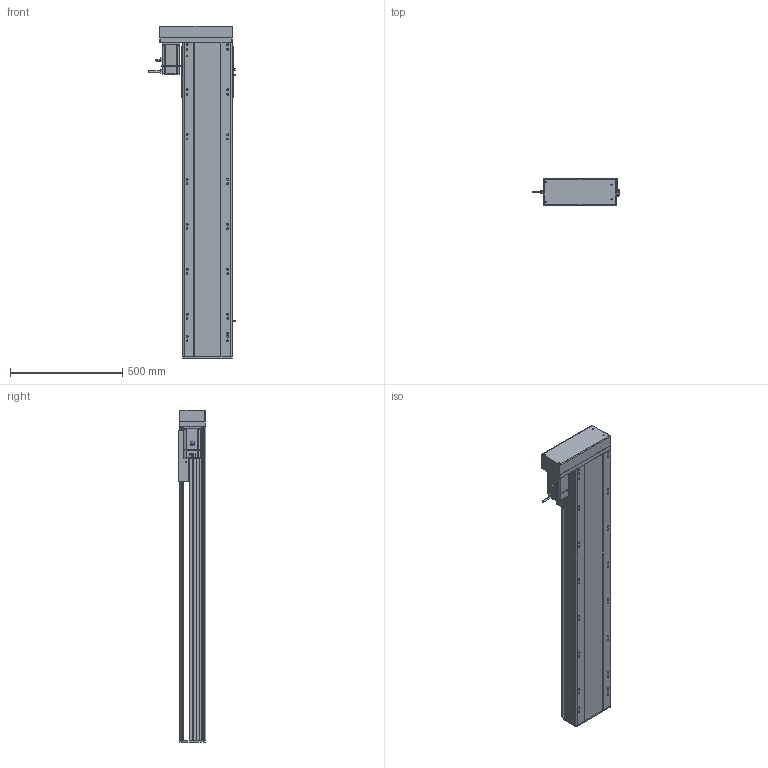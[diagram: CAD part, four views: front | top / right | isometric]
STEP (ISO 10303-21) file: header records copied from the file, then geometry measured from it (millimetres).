
FILE_DESCRIPTION (( 'STEP AP214' ), '1' );
FILE_NAME ('RTH22-XX-1100-R-M75-C4.STEP', '2025-10-25T03:13:28', ( 'Microsoft' ), ( 'Microsoft' ), 'SwSTEP 2.0', 'SolidWorks 2018', '' );
FILE_SCHEMA (( 'AUTOMOTIVE_DESIGN' ));
Length unit declared in the file: millimetre
Products named in the file (10): RTH22-XX-1100-R-M75-C4; N_RTH22-L-018裔赽^RTH22-XX-XX-R-M75-C4; N_RTH22-R-008-P75萇儂啣^RTH22-XX-XX-R-M75-C4; N_OMRON EE-SX672 传感器^RTH22-XX-XX-R-M75-C4; N_750W萇儂^RTH22-XX-XX-R-M75-C4; N_RTH22-L-007奻裔^RTH22-XX-XX-R-M75-C4; N_RTH22-L-011菁釱^RTH22-XX-XX-R-M75-C4; N_RTH22-GY-013外置感应片^RTH22-XX-XX-R-M75-C4; N_RTH22-L-004-SFS25賑釱^RTH22-XX-XX-R-M75-C4; N_RTH22-GY-001耜裔^RTH22-XX-XX-R-M75-C4
Assembly tree (11 placements, depth 2):
  RTH22-XX-1100-R-M75-C4
    N_RTH22-L-011菁釱^RTH22-XX-XX-R-M75-C4
    N_RTH22-GY-001耜裔^RTH22-XX-XX-R-M75-C4
    N_750W萇儂^RTH22-XX-XX-R-M75-C4
    N_RTH22-R-008-P75萇儂啣^RTH22-XX-XX-R-M75-C4
    N_RTH22-L-007奻裔^RTH22-XX-XX-R-M75-C4
    N_OMRON EE-SX672 传感器^RTH22-XX-XX-R-M75-C4  x3
    N_RTH22-GY-013外置感应片^RTH22-XX-XX-R-M75-C4
    N_RTH22-L-004-SFS25賑釱^RTH22-XX-XX-R-M75-C4
    N_RTH22-L-018裔赽^RTH22-XX-XX-R-M75-C4
Bounding box: 384.7 x 122 x 1479.7 mm (x, y, z)
Volume: 20091065.4 mm3; surface area: 2231408.6 mm2
Topology: 11 solids, 11 shells, 1610 faces, 4397 edges, 2833 vertices
Faces by surface type: plane 795, cylinder 474, bspline 279, cone 62
Entity records: 40625 total; most frequent: CARTESIAN_POINT 12350, ORIENTED_EDGE 5762, DIRECTION 5447, EDGE_CURVE 2881, VERTEX_POINT 1869, AXIS2_PLACEMENT_3D 1838, LINE 1771, VECTOR 1771
